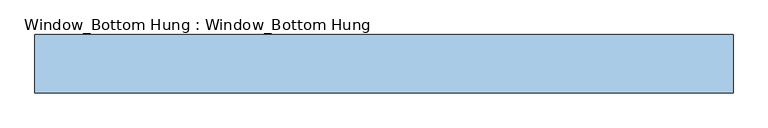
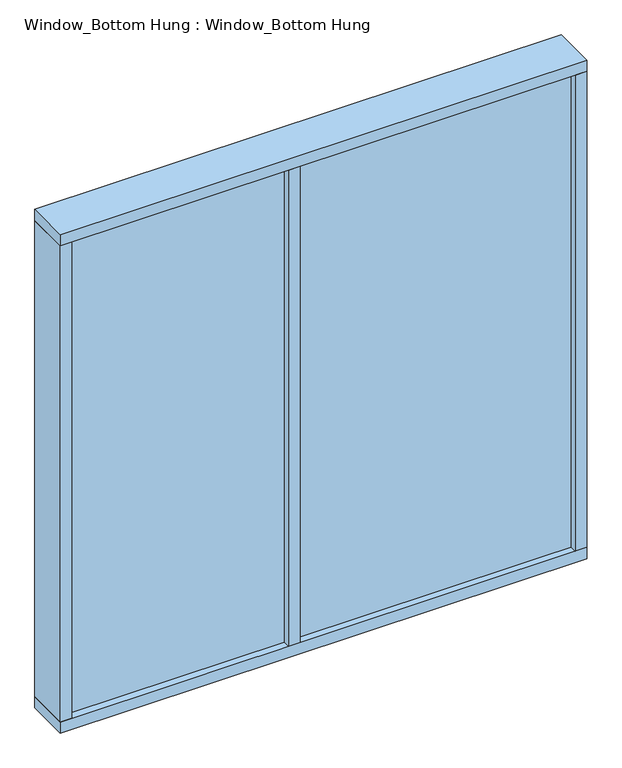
"""IFC4 building model written with IfcOpenShell, lengths in millimetres: window geometry, Window_Bottom Hung : Window_Bottom Hung."""

import ifcopenshell
import ifcopenshell.guid

model = None  # the IFC model being written
_history = None  # IfcOwnerHistory: only IFC2X3 demands one
_inside = {}  # id of a spatial element -> (the spatial element, [elements in it])
_under = {}  # id of a project, library or spatial element -> (it, [spatial elements below it])
_declared = {}  # id of a project -> (the project, [libraries it declares])
_typed = {}  # id of a type object -> (the type object, [elements of that type])
_made_of = {}  # id of a material, layer set ... -> (it, [elements and type objects made of it])


def new_model(schema):
    """Start an empty IFC model of exactly this schema.

    Asked for "IFC4X3", IfcOpenShell would pick the latest addendum, in which some entities
    have other attributes; the version numbers below select the first issue.
    IFC2X3 requires an IfcOwnerHistory on every rooted entity: one is made here for all.
    """
    global model, _history
    if schema == "IFC4X3":
        model = ifcopenshell.file(schema_version=(4, 3, 0, 0))
    else:
        model = ifcopenshell.file(schema=schema)
    _inside.clear()
    _under.clear()
    _declared.clear()
    _typed.clear()
    _made_of.clear()
    _history = None
    if model.schema == "IFC2X3":
        org = make("IfcOrganization", Name="unknown")
        user = make(
            "IfcPersonAndOrganization",
            ThePerson=make("IfcPerson", FamilyName="unknown"),
            TheOrganization=org,
        )
        app = make(
            "IfcApplication",
            ApplicationDeveloper=org,
            Version="unknown",
            ApplicationFullName="unknown",
            ApplicationIdentifier="unknown",
        )
        _history = make(
            "IfcOwnerHistory",
            OwningUser=user,
            OwningApplication=app,
            ChangeAction="ADDED",
            CreationDate=0,
        )
    return model


def make(cls, **values):
    """One entity of the class cls with the attributes given. An attribute that is None is left unset."""
    return model.create_entity(
        cls, **{name: value for name, value in values.items() if value is not None}
    )


def rooted(cls, **values):
    """An entity with a GlobalId (a new one), such as an element, a storey or a relation."""
    return make(cls, GlobalId=ifcopenshell.guid.new(), OwnerHistory=_history, **values)


def si_unit(unit_type, name, prefix=None):
    """IfcSIUnit, for example si_unit("LENGTHUNIT", "METRE", prefix="MILLI")."""
    return make("IfcSIUnit", UnitType=unit_type, Prefix=prefix, Name=name)


def assignment(units):
    """IfcUnitAssignment: the units of a project."""
    return None if units is None else make("IfcUnitAssignment", Units=units)


def point(xyz):
    """IfcCartesianPoint."""
    return None if xyz is None else make("IfcCartesianPoint", Coordinates=xyz)


def direction(xyz):
    """IfcDirection."""
    return None if xyz is None else make("IfcDirection", DirectionRatios=xyz)


def frame(location, z_axis=None, x_axis=None):
    """IfcAxis2Placement3D, a coordinate frame: its origin and axes. An axis left out is left unset."""
    return make(
        "IfcAxis2Placement3D",
        Location=point(location),
        Axis=direction(z_axis),
        RefDirection=direction(x_axis),
    )


def origin():
    """The frame at (0, 0, 0) with its axes left unset."""
    return frame((0.0, 0.0, 0.0))


def place(relative_to, where):
    """IfcLocalPlacement: puts the frame where relative to a parent placement (None: the world)."""
    return make(
        "IfcLocalPlacement", PlacementRelTo=relative_to, RelativePlacement=where
    )


def context(
    kind, dimensions, precision=None, world=None, true_north=None, identifier=None
):
    """IfcGeometricRepresentationContext, for example the 3D "Model" context."""
    return make(
        "IfcGeometricRepresentationContext",
        ContextIdentifier=identifier,
        ContextType=kind,
        CoordinateSpaceDimension=dimensions,
        Precision=precision,
        WorldCoordinateSystem=world,
        TrueNorth=true_north,
    )


def project(units=None, contexts=None):
    """IfcProject with its units and contexts."""
    return rooted(
        "IfcProject",
        Name="project",
        RepresentationContexts=contexts,
        UnitsInContext=assignment(units),
    )


def spatial(cls, under=None, at=None, **own):
    """A site, building, storey or space (cls), placed at a placement, below another one or the project."""
    s = rooted(cls, ObjectPlacement=at, **own)
    if under is not None:
        _under.setdefault(under.id(), (under, []))[1].append(s)
    return s


def polyline(points):
    """IfcPolyline through the points."""
    return make("IfcPolyline", Points=[point(p) for p in points])


def outline(outer, holes=None, kind="AREA"):
    """IfcArbitraryClosedProfileDef: a profile drawn as a closed curve; with holes, ...WithVoids."""
    if holes is None:
        return make("IfcArbitraryClosedProfileDef", ProfileType=kind, OuterCurve=outer)
    return make(
        "IfcArbitraryProfileDefWithVoids",
        ProfileType=kind,
        OuterCurve=outer,
        InnerCurves=holes,
    )


def extrude(swept, where, along, depth):
    """IfcExtrudedAreaSolid: the profile swept, set in the frame where, extruded along a direction by depth."""
    return make(
        "IfcExtrudedAreaSolid",
        SweptArea=swept,
        Position=where,
        ExtrudedDirection=direction(along),
        Depth=depth,
    )


def shape(context_of_items, identifier, shape_type, items):
    """IfcShapeRepresentation: the items that make up one representation, for example the "Body"."""
    return make(
        "IfcShapeRepresentation",
        ContextOfItems=context_of_items,
        RepresentationIdentifier=identifier,
        RepresentationType=shape_type,
        Items=items,
    )


def source(mapping_origin, context_of_items, identifier, shape_type, items):
    """IfcRepresentationMap: a shape defined once, which mapped items show again and again."""
    return make(
        "IfcRepresentationMap",
        MappingOrigin=mapping_origin,
        MappedRepresentation=shape(context_of_items, identifier, shape_type, items),
    )


def transform(
    local_origin,
    x_axis=None,
    y_axis=None,
    z_axis=None,
    scale=None,
    scale2=None,
    scale3=None,
    uniform=True,
):
    """IfcCartesianTransformationOperator3D, or its non-uniform kind. x_axis, y_axis, z_axis: its Axis1, 2, 3."""
    if uniform:
        return make(
            "IfcCartesianTransformationOperator3D",
            Axis1=direction(x_axis),
            Axis2=direction(y_axis),
            LocalOrigin=point(local_origin),
            Scale=scale,
            Axis3=direction(z_axis),
        )
    return make(
        "IfcCartesianTransformationOperator3DnonUniform",
        Axis1=direction(x_axis),
        Axis2=direction(y_axis),
        LocalOrigin=point(local_origin),
        Scale=scale,
        Axis3=direction(z_axis),
        Scale2=scale2,
        Scale3=scale3,
    )


def mapped(mapping_source, mapping_target):
    """IfcMappedItem: shows the shape of a source again, moved by a transform."""
    return make(
        "IfcMappedItem", MappingSource=mapping_source, MappingTarget=mapping_target
    )


def made_of(thing, what):
    """Note that an element or type object is made of a material, layer set ...; save() writes the relation."""
    if what is not None:
        _made_of.setdefault(what.id(), (what, []))[1].append(thing)
    return thing


def element(
    cls,
    number,
    at=None,
    inside=None,
    cuts=None,
    type_object=None,
    material=None,
    context=None,
    identifier="Body",
    shape_type=None,
    held_by="IfcProductDefinitionShape",
    body=None,
    shapes=None,
    **own,
):
    """One element of the class cls, such as IfcWall. Its Tag is "e" and its number.

    at: its placement. inside: the storey or other place that contains it. cuts: it is an
    opening in that element (IfcRelVoidsElement). A single representation is given by context,
    identifier, shape_type and body (its items); several are given by shapes. held_by: the class
    of the entity that holds the representations. save() writes the other relations.
    """
    e = rooted(cls, Tag="e%d" % number, ObjectPlacement=at, **own)
    if body is not None:
        shapes = [shape(context, identifier, shape_type, body)]
    if shapes is not None:
        e.Representation = make(held_by, Representations=shapes)
    if inside is not None:
        _inside.setdefault(inside.id(), (inside, []))[1].append(e)
    if cuts is not None:
        rooted(
            "IfcRelVoidsElement", RelatingBuildingElement=cuts, RelatedOpeningElement=e
        )
    if type_object is not None:
        _typed.setdefault(type_object.id(), (type_object, []))[1].append(e)
    return made_of(e, material)


def aggregate(whole, parts):
    """IfcRelAggregates: a whole, such as a stair, and the parts it consists of."""
    return rooted("IfcRelAggregates", RelatingObject=whole, RelatedObjects=parts)


def save(model, path):
    """Write the relations noted so far, then the file.

    IfcRelAggregates (storeys below a building ...), IfcRelContainedInSpatialStructure (elements
    in a storey), IfcRelDefinesByType, IfcRelAssociatesMaterial and IfcRelDeclares: one each for
    every whole, place, type object, material and project.
    """
    for whole, parts in _under.values():
        aggregate(whole, parts)
    for where, things in _inside.values():
        rooted(
            "IfcRelContainedInSpatialStructure",
            RelatedElements=things,
            RelatingStructure=where,
        )
    for kind, things in _typed.values():
        rooted("IfcRelDefinesByType", RelatedObjects=things, RelatingType=kind)
    for what, things in _made_of.values():
        rooted("IfcRelAssociatesMaterial", RelatedObjects=things, RelatingMaterial=what)
    for by, libraries in _declared.values():
        rooted("IfcRelDeclares", RelatingContext=by, RelatedDefinitions=libraries)
    model.write(path)


def window_bottom_hung_window_bottom_hung_da071f07(model_context):
    return source(origin(), model_context, "Body", "SweptSolid", [
        extrude(outline(polyline([(860.0, -98.0), (860.0, -110.0), (-80.0, -110.0), (-80.0, -98.0), (860.0, -98.0)])), frame((0.0, 0.0, 1040.0), z_axis=(0.0, 0.0, 1.0), x_axis=(1.0, 0.0, 0.0)), (0.0, 0.0, 1.0), 1720.0),
        extrude(outline(polyline([(-120.0, -98.0), (-120.0, -110.0), (-860.0, -110.0), (-860.0, -98.0), (-120.0, -98.0)])), frame((0.0, 0.0, 1040.0), z_axis=(0.0, 0.0, 1.0), x_axis=(1.0, 0.0, 0.0)), (0.0, 0.0, 1.0), 1720.0),
        extrude(outline(polyline([(900.0, -135.0), (-900.0, -135.0), (-900.0, 15.0), (900.0, 15.0), (900.0, -135.0)])), frame((0.0, 0.0, 2760.0), z_axis=(0.0, 0.0, 1.0), x_axis=(1.0, 0.0, 0.0)), (0.0, 0.0, 1.0), 40.0),
        extrude(outline(polyline([(900.0, -135.0), (-900.0, -135.0), (-900.0, 15.0), (900.0, 15.0), (900.0, -135.0)])), frame((0.0, 0.0, 1000.0), z_axis=(0.0, 0.0, 1.0), x_axis=(1.0, 0.0, 0.0)), (0.0, 0.0, 1.0), 40.0),
        extrude(outline(polyline([(-120.0, 15.0), (-80.0, 15.0), (-80.0, -135.0), (-120.0, -135.0), (-120.0, 15.0)])), frame((0.0, 0.0, 1040.0), z_axis=(0.0, 0.0, 1.0), x_axis=(1.0, 0.0, 0.0)), (0.0, 0.0, 1.0), 1720.0),
        extrude(outline(polyline([(-860.0, 15.0), (-860.0, -135.0), (-900.0, -135.0), (-900.0, 15.0), (-860.0, 15.0)])), frame((0.0, 0.0, 1040.0), z_axis=(0.0, 0.0, 1.0), x_axis=(1.0, 0.0, 0.0)), (0.0, 0.0, 1.0), 1720.0),
        extrude(outline(polyline([(860.0, 15.0), (900.0, 15.0), (900.0, -135.0), (860.0, -135.0), (860.0, 15.0)])), frame((0.0, 0.0, 1040.0), z_axis=(0.0, 0.0, 1.0), x_axis=(1.0, 0.0, 0.0)), (0.0, 0.0, 1.0), 1720.0),
    ])


if __name__ == "__main__":
    model = new_model("IFC4")
    model_context = context("Model", 3, world=origin())
    ifc_project = project(units=[si_unit("LENGTHUNIT", "METRE", prefix="MILLI")], contexts=[model_context])
    site = spatial("IfcSite", under=ifc_project)
    building = spatial("IfcBuilding", under=site)
    placement = place(None, origin())
    window_bottom_hung_window_bottom_hung_shape = window_bottom_hung_window_bottom_hung_da071f07(model_context)
    element("IfcWindow", 1, ObjectType="Window_Bottom Hung : Window_Bottom Hung", at=placement, inside=building, context=model_context, shape_type="MappedRepresentation", body=[
        mapped(window_bottom_hung_window_bottom_hung_shape, transform((0.0, 0.0, 0.0), x_axis=(1.0, 0.0, 0.0), y_axis=(0.0, 1.0, 0.0), z_axis=(0.0, 0.0, 1.0))),
    ])
    save(model, "model.ifc")
